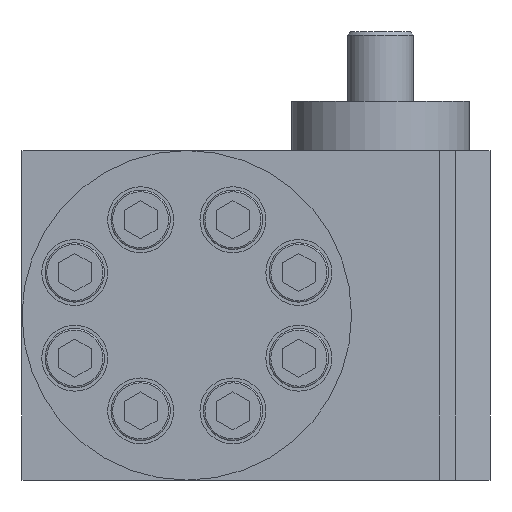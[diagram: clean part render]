
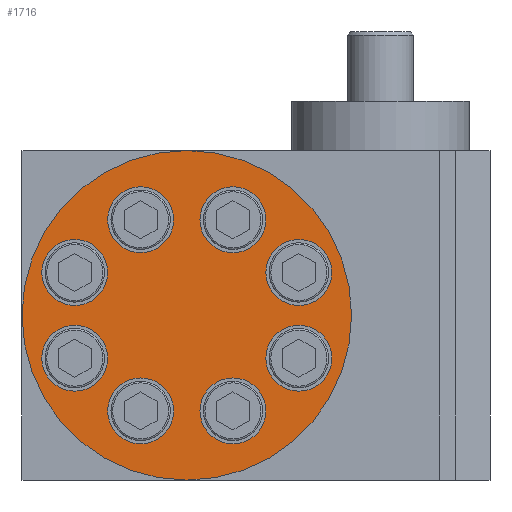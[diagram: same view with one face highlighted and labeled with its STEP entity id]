
A CAD part, left-side view. The second image highlights one B-rep face of the part: STEP entity #1716.
In plain terms, the highlighted planar face has unit normal (-1, 0, 0).
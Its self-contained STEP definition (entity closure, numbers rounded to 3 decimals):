
#504=PLANE('',#10926);
#988=FACE_BOUND('',#3033,.T.);
#989=FACE_BOUND('',#3034,.T.);
#990=FACE_BOUND('',#3035,.T.);
#991=FACE_BOUND('',#3036,.T.);
#992=FACE_BOUND('',#3037,.T.);
#993=FACE_BOUND('',#3038,.T.);
#994=FACE_BOUND('',#3039,.T.);
#995=FACE_BOUND('',#3040,.T.);
#996=FACE_BOUND('',#3041,.T.);
#1716=ADVANCED_FACE('',(#988,#989,#990,#991,#992,#993,#994,#995,#996),#504,
 .T.);
#3033=EDGE_LOOP('',(#5373));
#3034=EDGE_LOOP('',(#5374));
#3035=EDGE_LOOP('',(#5375));
#3036=EDGE_LOOP('',(#5376));
#3037=EDGE_LOOP('',(#5377));
#3038=EDGE_LOOP('',(#5378));
#3039=EDGE_LOOP('',(#5379));
#3040=EDGE_LOOP('',(#5380));
#3041=EDGE_LOOP('',(#5381));
#3967=CIRCLE('',#10915,50.);
#3969=CIRCLE('',#10918,10.);
#3970=CIRCLE('',#10919,10.);
#3971=CIRCLE('',#10920,10.);
#3972=CIRCLE('',#10921,10.);
#3973=CIRCLE('',#10922,10.);
#3974=CIRCLE('',#10923,10.);
#3975=CIRCLE('',#10924,10.);
#3976=CIRCLE('',#10925,10.);
#5373=ORIENTED_EDGE('',*,*,#8276,.T.);
#5374=ORIENTED_EDGE('',*,*,#8277,.T.);
#5375=ORIENTED_EDGE('',*,*,#8278,.T.);
#5376=ORIENTED_EDGE('',*,*,#8279,.T.);
#5377=ORIENTED_EDGE('',*,*,#8280,.T.);
#5378=ORIENTED_EDGE('',*,*,#8281,.T.);
#5379=ORIENTED_EDGE('',*,*,#8282,.T.);
#5380=ORIENTED_EDGE('',*,*,#8283,.T.);
#5381=ORIENTED_EDGE('',*,*,#8274,.T.);
#7161=VERTEX_POINT('',#32835);
#7163=VERTEX_POINT('',#32840);
#7164=VERTEX_POINT('',#32842);
#7165=VERTEX_POINT('',#32844);
#7166=VERTEX_POINT('',#32846);
#7167=VERTEX_POINT('',#32848);
#7168=VERTEX_POINT('',#32850);
#7169=VERTEX_POINT('',#32852);
#7170=VERTEX_POINT('',#32854);
#8274=EDGE_CURVE('',#7161,#7161,#3967,.T.);
#8276=EDGE_CURVE('',#7163,#7163,#3969,.T.);
#8277=EDGE_CURVE('',#7164,#7164,#3970,.T.);
#8278=EDGE_CURVE('',#7165,#7165,#3971,.T.);
#8279=EDGE_CURVE('',#7166,#7166,#3972,.T.);
#8280=EDGE_CURVE('',#7167,#7167,#3973,.T.);
#8281=EDGE_CURVE('',#7168,#7168,#3974,.T.);
#8282=EDGE_CURVE('',#7169,#7169,#3975,.T.);
#8283=EDGE_CURVE('',#7170,#7170,#3976,.T.);
#10915=AXIS2_PLACEMENT_3D('',#32834,#12795,#12796);
#10918=AXIS2_PLACEMENT_3D('',#32839,#12801,#12802);
#10919=AXIS2_PLACEMENT_3D('',#32841,#12803,#12804);
#10920=AXIS2_PLACEMENT_3D('',#32843,#12805,#12806);
#10921=AXIS2_PLACEMENT_3D('',#32845,#12807,#12808);
#10922=AXIS2_PLACEMENT_3D('',#32847,#12809,#12810);
#10923=AXIS2_PLACEMENT_3D('',#32849,#12811,#12812);
#10924=AXIS2_PLACEMENT_3D('',#32851,#12813,#12814);
#10925=AXIS2_PLACEMENT_3D('',#32853,#12815,#12816);
#10926=AXIS2_PLACEMENT_3D('',#32855,#12817,#12818);
#12795=DIRECTION('',(-1.,0.,0.));
#12796=DIRECTION('',(0.,-1.,0.));
#12801=DIRECTION('',(1.,0.,0.));
#12802=DIRECTION('',(0.,0.,1.));
#12803=DIRECTION('',(1.,0.,0.));
#12804=DIRECTION('',(0.,0.,1.));
#12805=DIRECTION('',(1.,0.,0.));
#12806=DIRECTION('',(0.,0.,1.));
#12807=DIRECTION('',(1.,0.,0.));
#12808=DIRECTION('',(0.,0.,1.));
#12809=DIRECTION('',(1.,0.,0.));
#12810=DIRECTION('',(0.,0.,1.));
#12811=DIRECTION('',(1.,0.,0.));
#12812=DIRECTION('',(0.,0.,1.));
#12813=DIRECTION('',(1.,0.,0.));
#12814=DIRECTION('',(0.,0.,1.));
#12815=DIRECTION('',(1.,0.,0.));
#12816=DIRECTION('',(0.,0.,1.));
#12817=DIRECTION('',(-1.,0.,0.));
#12818=DIRECTION('',(0.,0.,1.));
#32834=CARTESIAN_POINT('',(-102.5,34.683,50.));
#32835=CARTESIAN_POINT('',(-102.5,-15.317,50.));
#32839=CARTESIAN_POINT('',(-102.5,20.683,21.));
#32840=CARTESIAN_POINT('',(-102.5,20.683,31.));
#32841=CARTESIAN_POINT('',(-102.5,20.683,79.));
#32842=CARTESIAN_POINT('',(-102.5,20.683,89.));
#32843=CARTESIAN_POINT('',(-102.5,48.683,79.));
#32844=CARTESIAN_POINT('',(-102.5,48.683,89.));
#32845=CARTESIAN_POINT('',(-102.5,48.683,21.));
#32846=CARTESIAN_POINT('',(-102.5,48.683,31.));
#32847=CARTESIAN_POINT('',(-102.5,0.683,37.));
#32848=CARTESIAN_POINT('',(-102.5,0.683,47.));
#32849=CARTESIAN_POINT('',(-102.5,0.683,63.));
#32850=CARTESIAN_POINT('',(-102.5,0.683,73.));
#32851=CARTESIAN_POINT('',(-102.5,68.683,63.));
#32852=CARTESIAN_POINT('',(-102.5,68.683,73.));
#32853=CARTESIAN_POINT('',(-102.5,68.683,37.));
#32854=CARTESIAN_POINT('',(-102.5,68.683,47.));
#32855=CARTESIAN_POINT('',(-102.5,34.683,50.));
